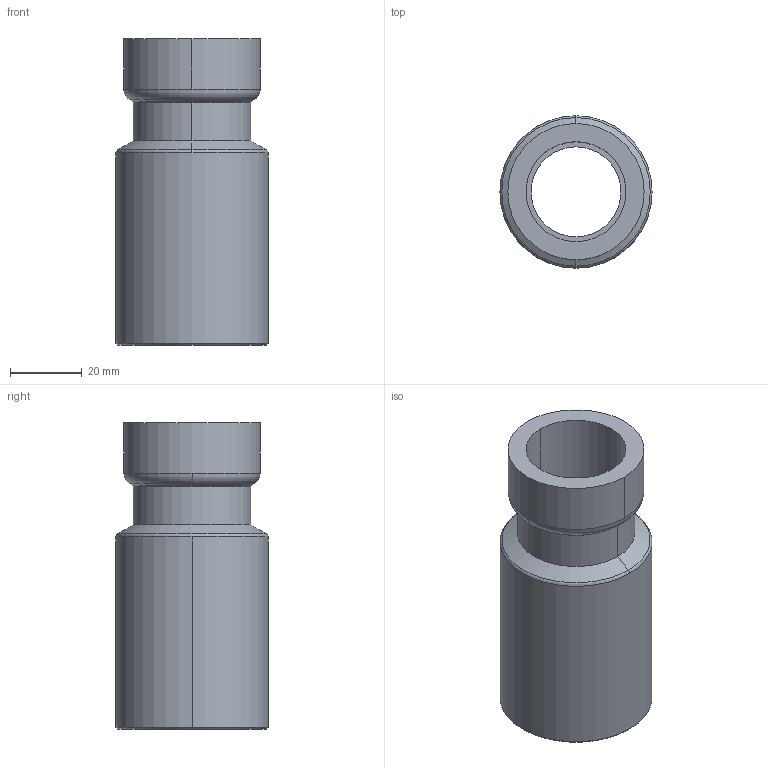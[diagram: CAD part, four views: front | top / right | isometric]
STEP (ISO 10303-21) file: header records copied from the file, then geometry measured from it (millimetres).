
FILE_DESCRIPTION(('Creo Elements/Direct Modeling STEP Export'),'2;1');
FILE_NAME('C9407_3-4_1-1-4.stp','2020-06-23T11:04:18',(''),(''),'PTC Creo Elements/Direct Modeling STEP processor for AP214 (Solid Model)','PTC Creo Elements/Direct Modeling 19.0C 15-Aug-2015 (C) Parametric Technology GmbH','');
FILE_SCHEMA(('AUTOMOTIVE_DESIGN { 1 0 10303 214 1 1 1 1 }'));
Length unit declared in the file: millimetre
Products named in the file (2): 9407_3-4_1-1-4
Assembly tree (1 placements, depth 2):
  9407_3-4_1-1-4
    9407_3-4_1-1-4
Bounding box: 42.3 x 42.3 x 85.16 mm (x, y, z)
Volume: 45841.3 mm3; surface area: 20601 mm2
Topology: 1 solids, 1 shells, 29 faces, 68 edges, 42 vertices
Faces by surface type: cylinder 12, cone 8, torus 6, plane 3
Entity records: 769 total; most frequent: ORIENTED_EDGE 136, DIRECTION 126, CARTESIAN_POINT 115, EDGE_CURVE 68, AXIS2_PLACEMENT_3D 53, VERTEX_POINT 42, EDGE_LOOP 32, FACE_OUTER_BOUND 29
